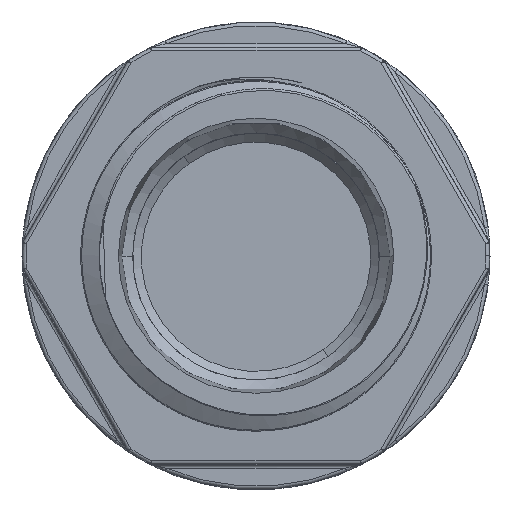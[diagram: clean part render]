
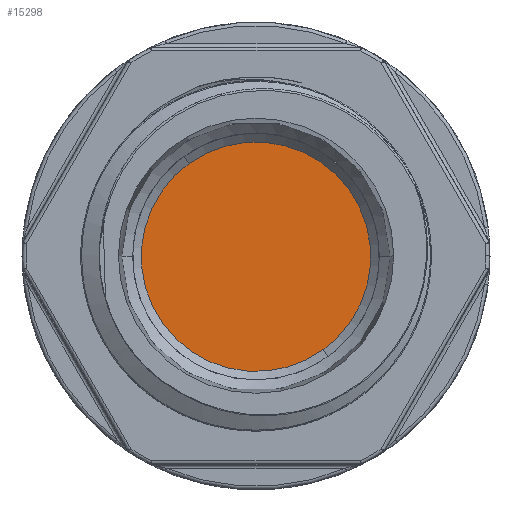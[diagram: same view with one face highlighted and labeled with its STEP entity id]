
A CAD part, top view. The second image highlights one B-rep face of the part: STEP entity #15298.
In plain terms, the highlighted planar face has unit normal (0, 0, 1) as drawn and (0, -1, 0) by its records, which use the part's own axes.
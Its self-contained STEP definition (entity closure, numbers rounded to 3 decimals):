
#563 = DIRECTION ( 'NONE',  ( 0., 0., 1. ) ) ;
#2850 = CIRCLE ( 'NONE', #37464, 6.588 ) ;
#2856 = EDGE_CURVE ( 'NONE', #56016, #53792, #2850, .T. ) ;
#4789 = ORIENTED_EDGE ( 'NONE', *, *, #8448, .T. ) ;
#4977 = DIRECTION ( 'NONE',  ( 0., -1., 0. ) ) ;
#6261 = DIRECTION ( 'NONE',  ( 0., -1., 0. ) ) ;
#8100 = FACE_OUTER_BOUND ( 'NONE', #54319, .T. ) ;
#8448 = EDGE_CURVE ( 'NONE', #53792, #56016, #14105, .T. ) ;
#10667 = CARTESIAN_POINT ( 'NONE',  ( 0., 22.296, 0. ) ) ;
#14105 = CIRCLE ( 'NONE', #16902, 6.588 ) ;
#15298 = ADVANCED_FACE ( 'NONE', ( #8100 ), #52638, .F. ) ;
#16902 = AXIS2_PLACEMENT_3D ( 'NONE', #49473, #4977, #563 ) ;
#21600 = DIRECTION ( 'NONE',  ( 0., 0., 1. ) ) ;
#33204 = DIRECTION ( 'NONE',  ( 0., 0., 1. ) ) ;
#37464 = AXIS2_PLACEMENT_3D ( 'NONE', #10667, #6261, #33204 ) ;
#39436 = CARTESIAN_POINT ( 'NONE',  ( 0., 22.296, 0. ) ) ;
#41234 = CARTESIAN_POINT ( 'NONE',  ( 0., 22.296, -6.587 ) ) ;
#44104 = DIRECTION ( 'NONE',  ( 0., 1., 0. ) ) ;
#44426 = ORIENTED_EDGE ( 'NONE', *, *, #2856, .T. ) ;
#48214 = CARTESIAN_POINT ( 'NONE',  ( 0., 22.296, 6.587 ) ) ;
#49473 = CARTESIAN_POINT ( 'NONE',  ( 0., 22.296, 0. ) ) ;
#52638 = PLANE ( 'NONE',  #53104 ) ;
#53104 = AXIS2_PLACEMENT_3D ( 'NONE', #39436, #44104, #21600 ) ;
#53792 = VERTEX_POINT ( 'NONE', #41234 ) ;
#54319 = EDGE_LOOP ( 'NONE', ( #4789, #44426 ) ) ;
#56016 = VERTEX_POINT ( 'NONE', #48214 ) ;
